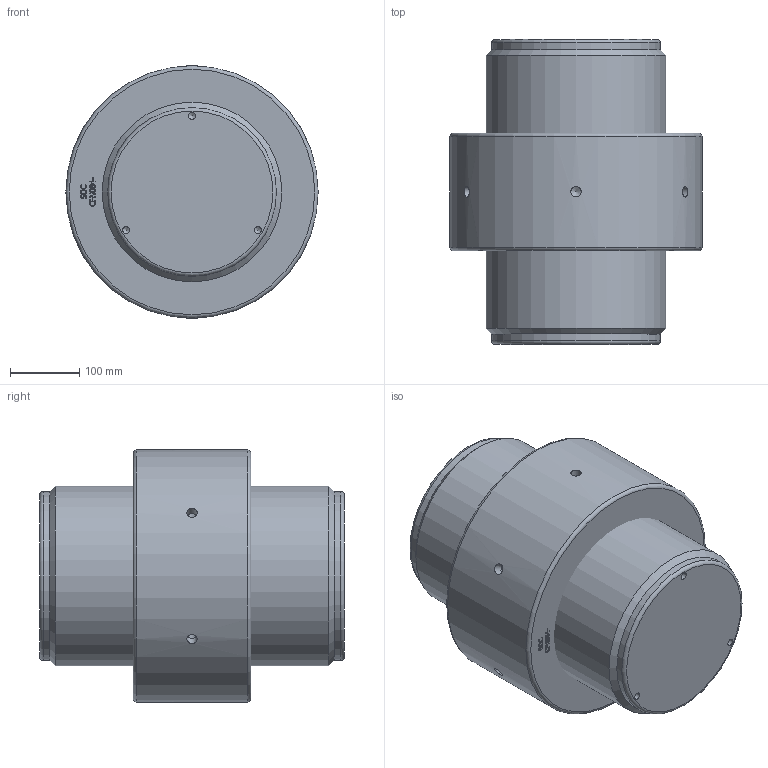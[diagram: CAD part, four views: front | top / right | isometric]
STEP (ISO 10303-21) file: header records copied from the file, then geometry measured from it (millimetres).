
FILE_DESCRIPTION(/* description */ (''),/* implementation_level */ '2;1');
FILE_NAME(/* name */ 'F:\Clienti LS\Redaelli\CYT\CYT\ARRNGEMENT\CYT084 61 061 0.stp',/* time_stamp */ '2021-05-09T08:51:06+02:00',/* author */ ('ranca'),/* organization */ (''),/* preprocessor_version */ 'ST-DEVELOPER v16.13',/* originating_system */ 'Autodesk Inventor 2018',/* authorisation */ '');
FILE_SCHEMA (('AUTOMOTIVE_DESIGN { 1 0 10303 214 3 1 1 }'));
Length unit declared in the file: millimetre
Products named in the file (3): CYT012-61-061-0; CYT012-61-061-0_1; CYT012-61-061-0_DADO
Assembly tree (2 placements, depth 2):
  CYT012-61-061-0
    CYT012-61-061-0_1
    CYT012-61-061-0_DADO
Bounding box: 365 x 441 x 365 mm (x, y, z)
Volume: 32480779.1 mm3; surface area: 895350.2 mm2
Topology: 2 solids, 2 shells, 354 faces, 956 edges, 636 vertices
Faces by surface type: bspline 186, plane 139, cylinder 14, cone 11, torus 4
Full cylindrical faces by diameter (mm): 10.106 x3, 15 x6, 244 x2, 251.34 x1, 260 x1, 365 x1
Entity records: 12014 total; most frequent: CARTESIAN_POINT 4518, ORIENTED_EDGE 1822, EDGE_CURVE 911, DIRECTION 899, VERTEX_POINT 620, LINE 501, VECTOR 501, EDGE_LOOP 415
